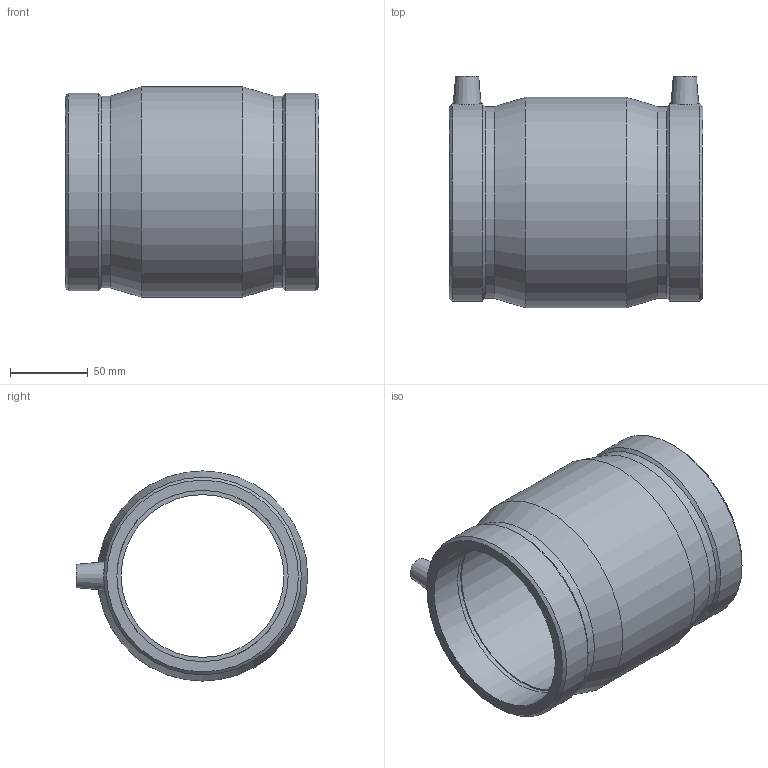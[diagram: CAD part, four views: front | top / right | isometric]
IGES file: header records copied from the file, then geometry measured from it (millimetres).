
Global section: file name: 490104110.ipt; native system: Autodesk Inventor 2015; preprocessor: unknown; author: KIM; date: 20171106.093548; units: millimetre
Bounding box: 163 x 148.5 x 135 mm (x, y, z)
Volume: 634762.6 mm3; surface area: 135047.6 mm2
Topology: 1 solids, 1 shells, 38 faces, 84 edges, 56 vertices
Faces by surface type: plane 12, cone 10, revolution 9, cylinder 7
Full cylindrical faces by diameter (mm): 4 x2, 123.093 x2, 126.9 x2, 135 x1
